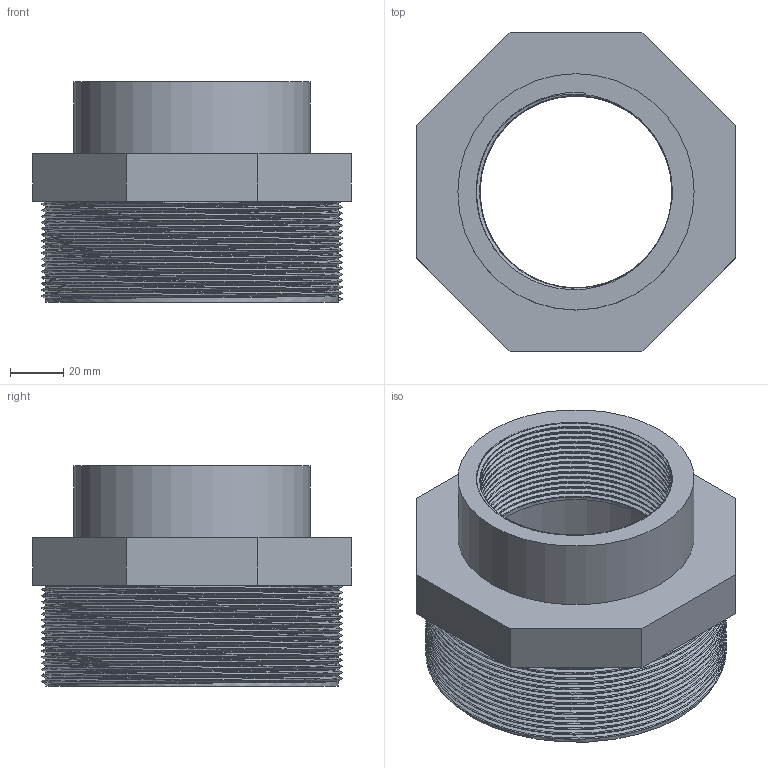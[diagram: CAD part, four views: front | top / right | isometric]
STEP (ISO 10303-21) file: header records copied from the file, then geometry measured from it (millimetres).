
FILE_DESCRIPTION(/* description */ (''),/* implementation_level */ '2;1');
FILE_NAME(/* name */ 'C:\Users\POLYPIPE\Desktop\DATASET INVENTOR\LIBRERIA EFFAST\RACCORDI 3DxWEB\RER\3D_RERRIE\3D_RERRIE110H.stp',/* time_stamp */ '2018-01-19T17:14:46+01:00',/* author */ ('POLYPIPE'),/* organization */ ('Polypipe Italia'),/* preprocessor_version */ 'ST-DEVELOPER v16.1',/* originating_system */ 'Autodesk Inventor 2016',/* authorisation */ '');
FILE_SCHEMA (('CONFIG_CONTROL_DESIGN'));
Length unit declared in the file: millimetre
Products named in the file (1): 3D_RERRIE110H
Bounding box: 120 x 120 x 83 mm (x, y, z)
Volume: 247742.1 mm3; surface area: 80819.4 mm2
Topology: 1 solids, 1 shells, 29 faces, 68 edges, 44 vertices
Faces by surface type: plane 15, bspline 10, cylinder 4
Full cylindrical faces by diameter (mm): 72.226 x1, 89 x1, 97.5 x1, 110.072 x1
Entity records: 12768 total; most frequent: CARTESIAN_POINT 12153, ORIENTED_EDGE 128, DIRECTION 94, EDGE_CURVE 64, VERTEX_POINT 43, EDGE_LOOP 37, AXIS2_PLACEMENT_3D 32, LINE 30
